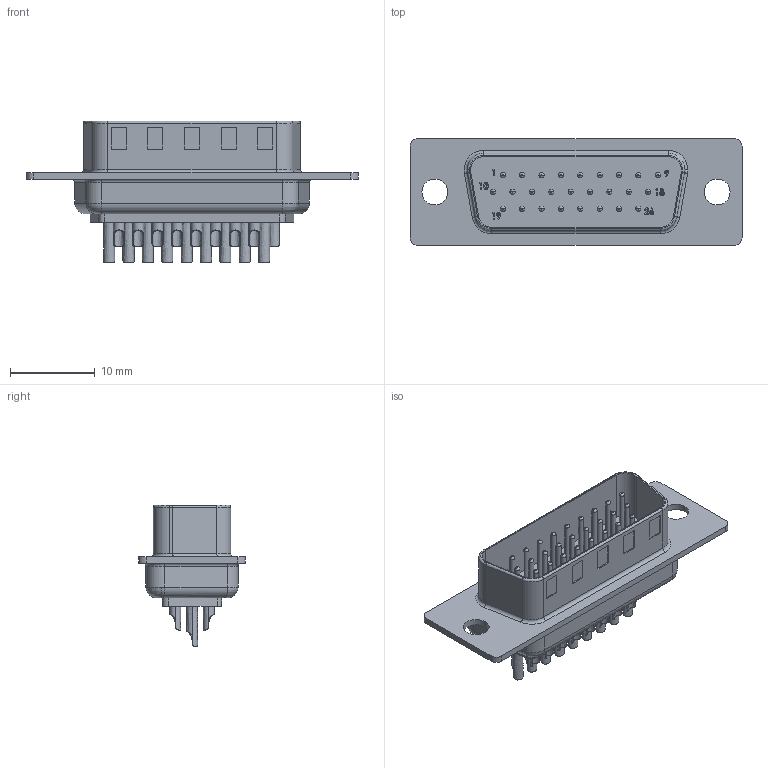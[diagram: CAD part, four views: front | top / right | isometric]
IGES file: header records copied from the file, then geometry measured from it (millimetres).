
Global section: file name: Filename.iges; native system: Open CASCADE 7.3; preprocessor: Open CASCADE IGES processor 7.3; date: 20210420.082636; units: millimetre
Bounding box: 39.19 x 12.6 x 16.74 mm (x, y, z)
Surface area: 3001.9 mm2 (no closed solid volume)
Topology: 0 solids, 0 shells, 825 faces, 3970 edges, 3970 vertices
Faces by surface type: revolution 369, plane 344, bspline 112
